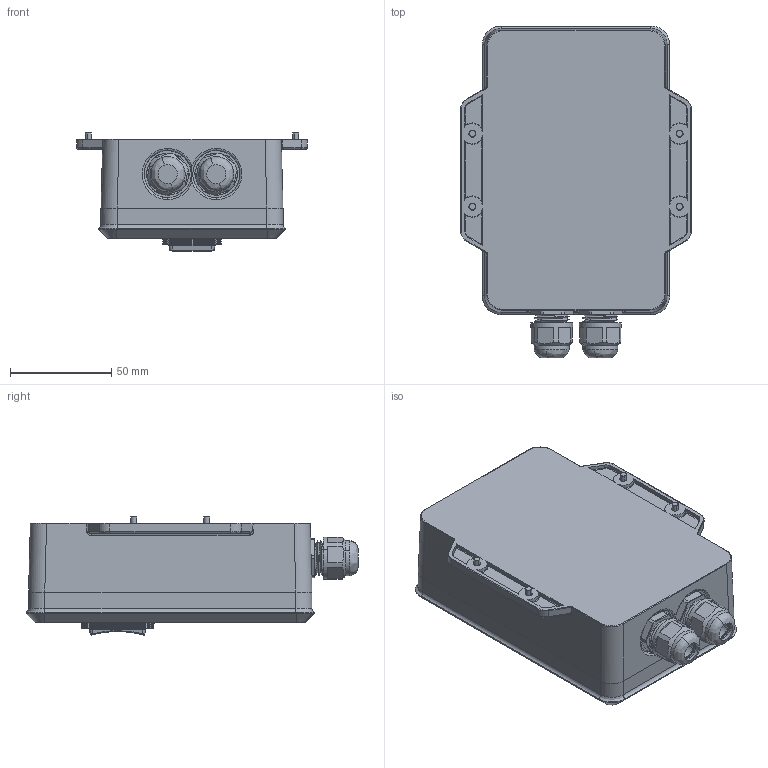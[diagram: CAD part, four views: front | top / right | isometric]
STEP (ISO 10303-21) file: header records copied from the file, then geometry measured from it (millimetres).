
FILE_DESCRIPTION (( 'STEP AP203' ), '1' );
FILE_NAME ('3D_TSB1.STEP', '2018-06-21T09:25:37', ( '' ), ( '' ), 'SwSTEP 2.0', 'SolidWorks 2015', '' );
FILE_SCHEMA (( 'CONFIG_CONTROL_DESIGN' ));
Length unit declared in the file: millimetre
Products named in the file (9): 上蓋; SB_C角下蓋; 防水出線頭; M3x4; 矽膠防水圈; swith橡膠套_180521; 3D_TSB1; 固定片; SB開關_180424
Assembly tree (16 placements, depth 2):
  3D_TSB1
    固定片
    SB開關_180424
    上蓋
    SB_C角下蓋
    防水出線頭  x2
    M3x4  x8
    矽膠防水圈
    swith橡膠套_180521
Bounding box: 113.98 x 163.74 x 58.2 mm (x, y, z)
Volume: 109223.7 mm3; surface area: 153422.7 mm2
Topology: 19 solids, 29 shells, 2666 faces, 6586 edges, 3975 vertices
Faces by surface type: cylinder 1040, plane 835, bspline 655, cone 136
Entity records: 72529 total; most frequent: CARTESIAN_POINT 30256, ORIENTED_EDGE 9102, DIRECTION 7954, EDGE_CURVE 4579, VERTEX_POINT 2867, AXIS2_PLACEMENT_3D 2827, LINE 2300, VECTOR 2300
